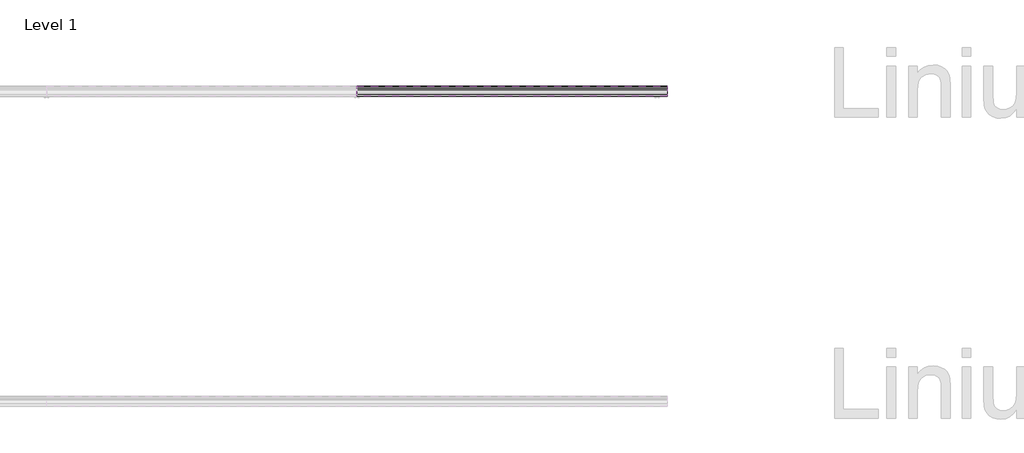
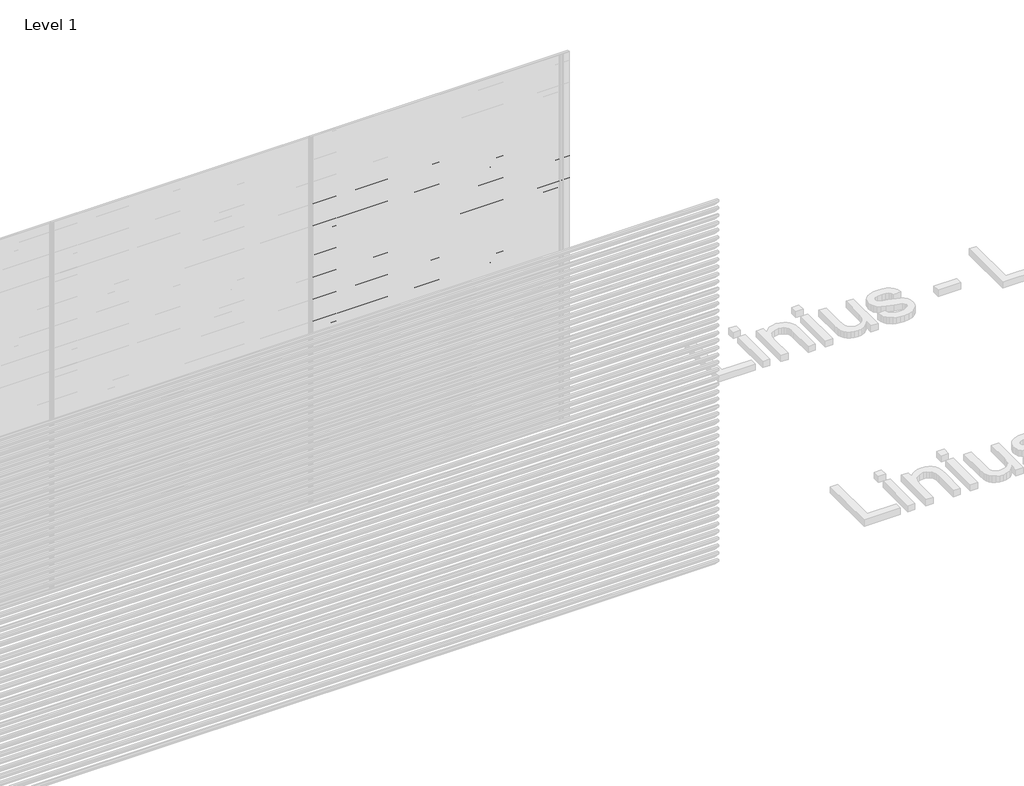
# One storey, part 151 of 153: 33 proxies.
"""IFC4 building model written with IfcOpenShell, lengths in millimetres."""

from ifc_helpers import new_model, si_unit, point, frame, frame_2d, origin, place, context, project, spatial, polyline, circle_curve, trimmed, segment, composite_curve, outline, extrude, element, save

model = new_model("IFC4")

# Units and contexts
model_context = context("Model", 3, world=origin())
ifc_project = project(units=[si_unit("LENGTHUNIT", "METRE", prefix="MILLI")], contexts=[model_context])

# Site, building, storey
site = spatial("IfcSite", under=ifc_project)
building = spatial("IfcBuilding", under=site)
storey = spatial("IfcBuildingStorey", under=building, Name="Level 1", Elevation=0.0)

# Proxies
placement = place(None, origin())
element("IfcBuildingElementProxy", 1, Name="Wall Sweeps", at=placement, inside=storey, context=model_context, shape_type="SweptSolid", body=[
    extrude(outline(composite_curve([segment(polyline([(73985.0540136, 2520.0), (73999.874191, 2518.7034025), (74049.0540136, 2465.0102749), (74049.0540136, 2453.6108187)]), True, "CONTINUOUS"), segment(trimmed(circle_curve(frame_2d((74045.7883652, 2453.897153)), 3.2781774), [point((74049.0540136, 2453.6108187))], [point((74046.4639442, 2450.6893438))], False, "CARTESIAN"), True, "CONTINUOUS"), segment(polyline([(74046.4639442, 2450.6893438), (74034.1895723, 2451.6282758), (73985.0540136, 2505.2730773), (73985.0540136, 2520.0)]), True, "CONTINUOUS")], self_intersect=False), holes=[composite_curve([segment(polyline([(73999.1621773, 2517.2599659), (73986.5540136, 2518.3630372), (73986.5540136, 2505.856213), (74034.8952036, 2453.0786805), (74046.3312542, 2452.2038762)]), True, "CONTINUOUS"), segment(trimmed(circle_curve(frame_2d((74045.7883652, 2453.897153)), 1.7781774), [point((74046.3312542, 2452.2038762))], [point((74047.5540136, 2453.6864389))], True, "CARTESIAN"), True, "CONTINUOUS"), segment(polyline([(74047.5540136, 2453.6864389), (74047.5540136, 2464.4271392), (73999.1621773, 2517.2599659)]), True, "CONTINUOUS")], self_intersect=False)]), frame((48966.6208096, 0.0, 0.0), z_axis=(1.0, 0.0, 0.0), x_axis=(0.0, 1.0, 0.0)), (0.0, 0.0, 1.0), 2000.0000001),
])
element("IfcBuildingElementProxy", 2, Name="Wall Sweeps", at=placement, inside=storey, context=model_context, shape_type="SweptSolid", body=[
    extrude(outline(composite_curve([segment(polyline([(73985.0540136, 2460.0), (73999.874191, 2458.7034025), (74049.0540136, 2405.0102749), (74049.0540136, 2393.6108187)]), True, "CONTINUOUS"), segment(trimmed(circle_curve(frame_2d((74045.7883652, 2393.897153)), 3.2781774), [point((74049.0540136, 2393.6108187))], [point((74046.4639442, 2390.6893438))], False, "CARTESIAN"), True, "CONTINUOUS"), segment(polyline([(74046.4639442, 2390.6893438), (74034.1895723, 2391.6282758), (73985.0540136, 2445.2730773), (73985.0540136, 2460.0)]), True, "CONTINUOUS")], self_intersect=False), holes=[composite_curve([segment(polyline([(73999.1621773, 2457.2599659), (73986.5540136, 2458.3630372), (73986.5540136, 2445.856213), (74034.8952036, 2393.0786805), (74046.3312542, 2392.2038762)]), True, "CONTINUOUS"), segment(trimmed(circle_curve(frame_2d((74045.7883652, 2393.897153)), 1.7781774), [point((74046.3312542, 2392.2038762))], [point((74047.5540136, 2393.6864389))], True, "CARTESIAN"), True, "CONTINUOUS"), segment(polyline([(74047.5540136, 2393.6864389), (74047.5540136, 2404.4271392), (73999.1621773, 2457.2599659)]), True, "CONTINUOUS")], self_intersect=False)]), frame((48966.6208096, 0.0, 0.0), z_axis=(1.0, 0.0, 0.0), x_axis=(0.0, 1.0, 0.0)), (0.0, 0.0, 1.0), 2000.0000001),
])
element("IfcBuildingElementProxy", 3, Name="Wall Sweeps", at=placement, inside=storey, context=model_context, shape_type="SweptSolid", body=[
    extrude(outline(composite_curve([segment(polyline([(73985.0540136, 2400.0), (73999.874191, 2398.7034025), (74049.0540136, 2345.0102749), (74049.0540136, 2333.6108187)]), True, "CONTINUOUS"), segment(trimmed(circle_curve(frame_2d((74045.7883652, 2333.897153)), 3.2781774), [point((74049.0540136, 2333.6108187))], [point((74046.4639442, 2330.6893438))], False, "CARTESIAN"), True, "CONTINUOUS"), segment(polyline([(74046.4639442, 2330.6893438), (74034.1895723, 2331.6282758), (73985.0540136, 2385.2730773), (73985.0540136, 2400.0)]), True, "CONTINUOUS")], self_intersect=False), holes=[composite_curve([segment(polyline([(73999.1621773, 2397.2599659), (73986.5540136, 2398.3630372), (73986.5540136, 2385.856213), (74034.8952036, 2333.0786805), (74046.3312542, 2332.2038762)]), True, "CONTINUOUS"), segment(trimmed(circle_curve(frame_2d((74045.7883652, 2333.897153)), 1.7781774), [point((74046.3312542, 2332.2038762))], [point((74047.5540136, 2333.6864389))], True, "CARTESIAN"), True, "CONTINUOUS"), segment(polyline([(74047.5540136, 2333.6864389), (74047.5540136, 2344.4271392), (73999.1621773, 2397.2599659)]), True, "CONTINUOUS")], self_intersect=False)]), frame((48966.6208096, 0.0, 0.0), z_axis=(1.0, 0.0, 0.0), x_axis=(0.0, 1.0, 0.0)), (0.0, 0.0, 1.0), 2000.0000001),
])
element("IfcBuildingElementProxy", 4, Name="Wall Sweeps", at=placement, inside=storey, context=model_context, shape_type="SweptSolid", body=[
    extrude(outline(composite_curve([segment(polyline([(73985.0540136, 2340.0), (73999.874191, 2338.7034025), (74049.0540136, 2285.0102749), (74049.0540136, 2273.6108187)]), True, "CONTINUOUS"), segment(trimmed(circle_curve(frame_2d((74045.7883652, 2273.897153)), 3.2781774), [point((74049.0540136, 2273.6108187))], [point((74046.4639442, 2270.6893438))], False, "CARTESIAN"), True, "CONTINUOUS"), segment(polyline([(74046.4639442, 2270.6893438), (74034.1895723, 2271.6282758), (73985.0540136, 2325.2730773), (73985.0540136, 2340.0)]), True, "CONTINUOUS")], self_intersect=False), holes=[composite_curve([segment(polyline([(73999.1621773, 2337.2599659), (73986.5540136, 2338.3630372), (73986.5540136, 2325.856213), (74034.8952036, 2273.0786805), (74046.3312542, 2272.2038762)]), True, "CONTINUOUS"), segment(trimmed(circle_curve(frame_2d((74045.7883652, 2273.897153)), 1.7781774), [point((74046.3312542, 2272.2038762))], [point((74047.5540136, 2273.6864389))], True, "CARTESIAN"), True, "CONTINUOUS"), segment(polyline([(74047.5540136, 2273.6864389), (74047.5540136, 2284.4271392), (73999.1621773, 2337.2599659)]), True, "CONTINUOUS")], self_intersect=False)]), frame((48966.6208096, 0.0, 0.0), z_axis=(1.0, 0.0, 0.0), x_axis=(0.0, 1.0, 0.0)), (0.0, 0.0, 1.0), 2000.0000001),
])
element("IfcBuildingElementProxy", 5, Name="Wall Sweeps", at=placement, inside=storey, context=model_context, shape_type="SweptSolid", body=[
    extrude(outline(composite_curve([segment(polyline([(73985.0540136, 2280.0), (73999.874191, 2278.7034025), (74049.0540136, 2225.0102749), (74049.0540136, 2213.6108187)]), True, "CONTINUOUS"), segment(trimmed(circle_curve(frame_2d((74045.7883652, 2213.897153)), 3.2781774), [point((74049.0540136, 2213.6108187))], [point((74046.4639442, 2210.6893438))], False, "CARTESIAN"), True, "CONTINUOUS"), segment(polyline([(74046.4639442, 2210.6893438), (74034.1895723, 2211.6282758), (73985.0540136, 2265.2730773), (73985.0540136, 2280.0)]), True, "CONTINUOUS")], self_intersect=False), holes=[composite_curve([segment(polyline([(73999.1621773, 2277.2599659), (73986.5540136, 2278.3630372), (73986.5540136, 2265.856213), (74034.8952036, 2213.0786805), (74046.3312542, 2212.2038762)]), True, "CONTINUOUS"), segment(trimmed(circle_curve(frame_2d((74045.7883652, 2213.897153)), 1.7781774), [point((74046.3312542, 2212.2038762))], [point((74047.5540136, 2213.6864389))], True, "CARTESIAN"), True, "CONTINUOUS"), segment(polyline([(74047.5540136, 2213.6864389), (74047.5540136, 2224.4271392), (73999.1621773, 2277.2599659)]), True, "CONTINUOUS")], self_intersect=False)]), frame((48966.6208096, 0.0, 0.0), z_axis=(1.0, 0.0, 0.0), x_axis=(0.0, 1.0, 0.0)), (0.0, 0.0, 1.0), 2000.0000001),
])
element("IfcBuildingElementProxy", 6, Name="Wall Sweeps", at=placement, inside=storey, context=model_context, shape_type="SweptSolid", body=[
    extrude(outline(composite_curve([segment(polyline([(73985.0540136, 2220.0), (73999.874191, 2218.7034025), (74049.0540136, 2165.0102749), (74049.0540136, 2153.6108187)]), True, "CONTINUOUS"), segment(trimmed(circle_curve(frame_2d((74045.7883652, 2153.897153)), 3.2781774), [point((74049.0540136, 2153.6108187))], [point((74046.4639442, 2150.6893438))], False, "CARTESIAN"), True, "CONTINUOUS"), segment(polyline([(74046.4639442, 2150.6893438), (74034.1895723, 2151.6282758), (73985.0540136, 2205.2730773), (73985.0540136, 2220.0)]), True, "CONTINUOUS")], self_intersect=False), holes=[composite_curve([segment(polyline([(73999.1621773, 2217.2599659), (73986.5540136, 2218.3630372), (73986.5540136, 2205.856213), (74034.8952036, 2153.0786805), (74046.3312542, 2152.2038762)]), True, "CONTINUOUS"), segment(trimmed(circle_curve(frame_2d((74045.7883652, 2153.897153)), 1.7781774), [point((74046.3312542, 2152.2038762))], [point((74047.5540136, 2153.6864389))], True, "CARTESIAN"), True, "CONTINUOUS"), segment(polyline([(74047.5540136, 2153.6864389), (74047.5540136, 2164.4271392), (73999.1621773, 2217.2599659)]), True, "CONTINUOUS")], self_intersect=False)]), frame((48966.6208096, 0.0, 0.0), z_axis=(1.0, 0.0, 0.0), x_axis=(0.0, 1.0, 0.0)), (0.0, 0.0, 1.0), 2000.0000001),
])
element("IfcBuildingElementProxy", 7, Name="Wall Sweeps", at=placement, inside=storey, context=model_context, shape_type="SweptSolid", body=[
    extrude(outline(composite_curve([segment(polyline([(73985.0540136, 2160.0), (73999.874191, 2158.7034025), (74049.0540136, 2105.0102749), (74049.0540136, 2093.6108187)]), True, "CONTINUOUS"), segment(trimmed(circle_curve(frame_2d((74045.7883652, 2093.897153)), 3.2781774), [point((74049.0540136, 2093.6108187))], [point((74046.4639442, 2090.6893438))], False, "CARTESIAN"), True, "CONTINUOUS"), segment(polyline([(74046.4639442, 2090.6893438), (74034.1895723, 2091.6282758), (73985.0540136, 2145.2730773), (73985.0540136, 2160.0)]), True, "CONTINUOUS")], self_intersect=False), holes=[composite_curve([segment(polyline([(73999.1621773, 2157.2599659), (73986.5540136, 2158.3630372), (73986.5540136, 2145.856213), (74034.8952036, 2093.0786805), (74046.3312542, 2092.2038762)]), True, "CONTINUOUS"), segment(trimmed(circle_curve(frame_2d((74045.7883652, 2093.897153)), 1.7781774), [point((74046.3312542, 2092.2038762))], [point((74047.5540136, 2093.6864389))], True, "CARTESIAN"), True, "CONTINUOUS"), segment(polyline([(74047.5540136, 2093.6864389), (74047.5540136, 2104.4271392), (73999.1621773, 2157.2599659)]), True, "CONTINUOUS")], self_intersect=False)]), frame((48966.6208096, 0.0, 0.0), z_axis=(1.0, 0.0, 0.0), x_axis=(0.0, 1.0, 0.0)), (0.0, 0.0, 1.0), 2000.0000001),
])
element("IfcBuildingElementProxy", 8, Name="Wall Sweeps", at=placement, inside=storey, context=model_context, shape_type="SweptSolid", body=[
    extrude(outline(composite_curve([segment(polyline([(73985.0540136, 2100.0), (73999.874191, 2098.7034025), (74049.0540136, 2045.0102749), (74049.0540136, 2033.6108187)]), True, "CONTINUOUS"), segment(trimmed(circle_curve(frame_2d((74045.7883652, 2033.897153)), 3.2781774), [point((74049.0540136, 2033.6108187))], [point((74046.4639442, 2030.6893438))], False, "CARTESIAN"), True, "CONTINUOUS"), segment(polyline([(74046.4639442, 2030.6893438), (74034.1895723, 2031.6282758), (73985.0540136, 2085.2730773), (73985.0540136, 2100.0)]), True, "CONTINUOUS")], self_intersect=False), holes=[composite_curve([segment(polyline([(73999.1621773, 2097.2599659), (73986.5540136, 2098.3630372), (73986.5540136, 2085.856213), (74034.8952036, 2033.0786805), (74046.3312542, 2032.2038762)]), True, "CONTINUOUS"), segment(trimmed(circle_curve(frame_2d((74045.7883652, 2033.897153)), 1.7781774), [point((74046.3312542, 2032.2038762))], [point((74047.5540136, 2033.6864389))], True, "CARTESIAN"), True, "CONTINUOUS"), segment(polyline([(74047.5540136, 2033.6864389), (74047.5540136, 2044.4271392), (73999.1621773, 2097.2599659)]), True, "CONTINUOUS")], self_intersect=False)]), frame((48966.6208096, 0.0, 0.0), z_axis=(1.0, 0.0, 0.0), x_axis=(0.0, 1.0, 0.0)), (0.0, 0.0, 1.0), 2000.0000001),
])
element("IfcBuildingElementProxy", 9, Name="Wall Sweeps", at=placement, inside=storey, context=model_context, shape_type="SweptSolid", body=[
    extrude(outline(composite_curve([segment(polyline([(73985.0540136, 2040.0), (73999.874191, 2038.7034025), (74049.0540136, 1985.0102749), (74049.0540136, 1973.6108187)]), True, "CONTINUOUS"), segment(trimmed(circle_curve(frame_2d((74045.7883652, 1973.897153)), 3.2781774), [point((74049.0540136, 1973.6108187))], [point((74046.4639442, 1970.6893438))], False, "CARTESIAN"), True, "CONTINUOUS"), segment(polyline([(74046.4639442, 1970.6893438), (74034.1895723, 1971.6282758), (73985.0540136, 2025.2730773), (73985.0540136, 2040.0)]), True, "CONTINUOUS")], self_intersect=False), holes=[composite_curve([segment(polyline([(73999.1621773, 2037.2599659), (73986.5540136, 2038.3630372), (73986.5540136, 2025.856213), (74034.8952036, 1973.0786805), (74046.3312542, 1972.2038762)]), True, "CONTINUOUS"), segment(trimmed(circle_curve(frame_2d((74045.7883652, 1973.897153)), 1.7781774), [point((74046.3312542, 1972.2038762))], [point((74047.5540136, 1973.6864389))], True, "CARTESIAN"), True, "CONTINUOUS"), segment(polyline([(74047.5540136, 1973.6864389), (74047.5540136, 1984.4271392), (73999.1621773, 2037.2599659)]), True, "CONTINUOUS")], self_intersect=False)]), frame((48966.6208096, 0.0, 0.0), z_axis=(1.0, 0.0, 0.0), x_axis=(0.0, 1.0, 0.0)), (0.0, 0.0, 1.0), 2000.0000001),
])
element("IfcBuildingElementProxy", 10, Name="Wall Sweeps", at=placement, inside=storey, context=model_context, shape_type="SweptSolid", body=[
    extrude(outline(composite_curve([segment(polyline([(73985.0540136, 1980.0), (73999.874191, 1978.7034025), (74049.0540136, 1925.0102749), (74049.0540136, 1913.6108187)]), True, "CONTINUOUS"), segment(trimmed(circle_curve(frame_2d((74045.7883652, 1913.897153)), 3.2781774), [point((74049.0540136, 1913.6108187))], [point((74046.4639442, 1910.6893438))], False, "CARTESIAN"), True, "CONTINUOUS"), segment(polyline([(74046.4639442, 1910.6893438), (74034.1895723, 1911.6282758), (73985.0540136, 1965.2730773), (73985.0540136, 1980.0)]), True, "CONTINUOUS")], self_intersect=False), holes=[composite_curve([segment(polyline([(73999.1621773, 1977.2599659), (73986.5540136, 1978.3630372), (73986.5540136, 1965.856213), (74034.8952036, 1913.0786805), (74046.3312542, 1912.2038762)]), True, "CONTINUOUS"), segment(trimmed(circle_curve(frame_2d((74045.7883652, 1913.897153)), 1.7781774), [point((74046.3312542, 1912.2038762))], [point((74047.5540136, 1913.6864389))], True, "CARTESIAN"), True, "CONTINUOUS"), segment(polyline([(74047.5540136, 1913.6864389), (74047.5540136, 1924.4271392), (73999.1621773, 1977.2599659)]), True, "CONTINUOUS")], self_intersect=False)]), frame((48966.6208096, 0.0, 0.0), z_axis=(1.0, 0.0, 0.0), x_axis=(0.0, 1.0, 0.0)), (0.0, 0.0, 1.0), 2000.0000001),
])
element("IfcBuildingElementProxy", 11, Name="Wall Sweeps", at=placement, inside=storey, context=model_context, shape_type="SweptSolid", body=[
    extrude(outline(composite_curve([segment(polyline([(73985.0540136, 1920.0), (73999.874191, 1918.7034025), (74049.0540136, 1865.0102749), (74049.0540136, 1853.6108187)]), True, "CONTINUOUS"), segment(trimmed(circle_curve(frame_2d((74045.7883652, 1853.897153)), 3.2781774), [point((74049.0540136, 1853.6108187))], [point((74046.4639442, 1850.6893438))], False, "CARTESIAN"), True, "CONTINUOUS"), segment(polyline([(74046.4639442, 1850.6893438), (74034.1895723, 1851.6282758), (73985.0540136, 1905.2730773), (73985.0540136, 1920.0)]), True, "CONTINUOUS")], self_intersect=False), holes=[composite_curve([segment(polyline([(73999.1621773, 1917.2599659), (73986.5540136, 1918.3630372), (73986.5540136, 1905.856213), (74034.8952036, 1853.0786805), (74046.3312542, 1852.2038762)]), True, "CONTINUOUS"), segment(trimmed(circle_curve(frame_2d((74045.7883652, 1853.897153)), 1.7781774), [point((74046.3312542, 1852.2038762))], [point((74047.5540136, 1853.6864389))], True, "CARTESIAN"), True, "CONTINUOUS"), segment(polyline([(74047.5540136, 1853.6864389), (74047.5540136, 1864.4271392), (73999.1621773, 1917.2599659)]), True, "CONTINUOUS")], self_intersect=False)]), frame((48966.6208096, 0.0, 0.0), z_axis=(1.0, 0.0, 0.0), x_axis=(0.0, 1.0, 0.0)), (0.0, 0.0, 1.0), 2000.0000001),
])
element("IfcBuildingElementProxy", 12, Name="Wall Sweeps", at=placement, inside=storey, context=model_context, shape_type="SweptSolid", body=[
    extrude(outline(composite_curve([segment(polyline([(73985.0540136, 1860.0), (73999.874191, 1858.7034025), (74049.0540136, 1805.0102749), (74049.0540136, 1793.6108187)]), True, "CONTINUOUS"), segment(trimmed(circle_curve(frame_2d((74045.7883652, 1793.897153)), 3.2781774), [point((74049.0540136, 1793.6108187))], [point((74046.4639442, 1790.6893438))], False, "CARTESIAN"), True, "CONTINUOUS"), segment(polyline([(74046.4639442, 1790.6893438), (74034.1895723, 1791.6282758), (73985.0540136, 1845.2730773), (73985.0540136, 1860.0)]), True, "CONTINUOUS")], self_intersect=False), holes=[composite_curve([segment(polyline([(73999.1621773, 1857.2599659), (73986.5540136, 1858.3630372), (73986.5540136, 1845.856213), (74034.8952036, 1793.0786805), (74046.3312542, 1792.2038762)]), True, "CONTINUOUS"), segment(trimmed(circle_curve(frame_2d((74045.7883652, 1793.897153)), 1.7781774), [point((74046.3312542, 1792.2038762))], [point((74047.5540136, 1793.6864389))], True, "CARTESIAN"), True, "CONTINUOUS"), segment(polyline([(74047.5540136, 1793.6864389), (74047.5540136, 1804.4271392), (73999.1621773, 1857.2599659)]), True, "CONTINUOUS")], self_intersect=False)]), frame((48966.6208096, 0.0, 0.0), z_axis=(1.0, 0.0, 0.0), x_axis=(0.0, 1.0, 0.0)), (0.0, 0.0, 1.0), 2000.0000001),
])
element("IfcBuildingElementProxy", 13, Name="Wall Sweeps", at=placement, inside=storey, context=model_context, shape_type="SweptSolid", body=[
    extrude(outline(composite_curve([segment(polyline([(73985.0540136, 1800.0), (73999.874191, 1798.7034025), (74049.0540136, 1745.0102749), (74049.0540136, 1733.6108187)]), True, "CONTINUOUS"), segment(trimmed(circle_curve(frame_2d((74045.7883652, 1733.897153)), 3.2781774), [point((74049.0540136, 1733.6108187))], [point((74046.4639442, 1730.6893438))], False, "CARTESIAN"), True, "CONTINUOUS"), segment(polyline([(74046.4639442, 1730.6893438), (74034.1895723, 1731.6282758), (73985.0540136, 1785.2730773), (73985.0540136, 1800.0)]), True, "CONTINUOUS")], self_intersect=False), holes=[composite_curve([segment(polyline([(73999.1621773, 1797.2599659), (73986.5540136, 1798.3630372), (73986.5540136, 1785.856213), (74034.8952036, 1733.0786805), (74046.3312542, 1732.2038762)]), True, "CONTINUOUS"), segment(trimmed(circle_curve(frame_2d((74045.7883652, 1733.897153)), 1.7781774), [point((74046.3312542, 1732.2038762))], [point((74047.5540136, 1733.6864389))], True, "CARTESIAN"), True, "CONTINUOUS"), segment(polyline([(74047.5540136, 1733.6864389), (74047.5540136, 1744.4271392), (73999.1621773, 1797.2599659)]), True, "CONTINUOUS")], self_intersect=False)]), frame((48966.6208096, 0.0, 0.0), z_axis=(1.0, 0.0, 0.0), x_axis=(0.0, 1.0, 0.0)), (0.0, 0.0, 1.0), 2000.0000001),
])
element("IfcBuildingElementProxy", 14, Name="Wall Sweeps", at=placement, inside=storey, context=model_context, shape_type="SweptSolid", body=[
    extrude(outline(composite_curve([segment(polyline([(73985.0540136, 1740.0), (73999.874191, 1738.7034025), (74049.0540136, 1685.0102749), (74049.0540136, 1673.6108187)]), True, "CONTINUOUS"), segment(trimmed(circle_curve(frame_2d((74045.7883652, 1673.897153)), 3.2781774), [point((74049.0540136, 1673.6108187))], [point((74046.4639442, 1670.6893438))], False, "CARTESIAN"), True, "CONTINUOUS"), segment(polyline([(74046.4639442, 1670.6893438), (74034.1895723, 1671.6282758), (73985.0540136, 1725.2730773), (73985.0540136, 1740.0)]), True, "CONTINUOUS")], self_intersect=False), holes=[composite_curve([segment(polyline([(73999.1621773, 1737.2599659), (73986.5540136, 1738.3630372), (73986.5540136, 1725.856213), (74034.8952036, 1673.0786805), (74046.3312542, 1672.2038762)]), True, "CONTINUOUS"), segment(trimmed(circle_curve(frame_2d((74045.7883652, 1673.897153)), 1.7781774), [point((74046.3312542, 1672.2038762))], [point((74047.5540136, 1673.6864389))], True, "CARTESIAN"), True, "CONTINUOUS"), segment(polyline([(74047.5540136, 1673.6864389), (74047.5540136, 1684.4271392), (73999.1621773, 1737.2599659)]), True, "CONTINUOUS")], self_intersect=False)]), frame((48966.6208096, 0.0, 0.0), z_axis=(1.0, 0.0, 0.0), x_axis=(0.0, 1.0, 0.0)), (0.0, 0.0, 1.0), 2000.0000001),
])
element("IfcBuildingElementProxy", 15, Name="Wall Sweeps", at=placement, inside=storey, context=model_context, shape_type="SweptSolid", body=[
    extrude(outline(composite_curve([segment(polyline([(73985.0540136, 1680.0), (73999.874191, 1678.7034025), (74049.0540136, 1625.0102749), (74049.0540136, 1613.6108187)]), True, "CONTINUOUS"), segment(trimmed(circle_curve(frame_2d((74045.7883652, 1613.897153)), 3.2781774), [point((74049.0540136, 1613.6108187))], [point((74046.4639442, 1610.6893438))], False, "CARTESIAN"), True, "CONTINUOUS"), segment(polyline([(74046.4639442, 1610.6893438), (74034.1895723, 1611.6282758), (73985.0540136, 1665.2730773), (73985.0540136, 1680.0)]), True, "CONTINUOUS")], self_intersect=False), holes=[composite_curve([segment(polyline([(73999.1621773, 1677.2599659), (73986.5540136, 1678.3630372), (73986.5540136, 1665.856213), (74034.8952036, 1613.0786805), (74046.3312542, 1612.2038762)]), True, "CONTINUOUS"), segment(trimmed(circle_curve(frame_2d((74045.7883652, 1613.897153)), 1.7781774), [point((74046.3312542, 1612.2038762))], [point((74047.5540136, 1613.6864389))], True, "CARTESIAN"), True, "CONTINUOUS"), segment(polyline([(74047.5540136, 1613.6864389), (74047.5540136, 1624.4271392), (73999.1621773, 1677.2599659)]), True, "CONTINUOUS")], self_intersect=False)]), frame((48966.6208096, 0.0, 0.0), z_axis=(1.0, 0.0, 0.0), x_axis=(0.0, 1.0, 0.0)), (0.0, 0.0, 1.0), 2000.0000001),
])
element("IfcBuildingElementProxy", 16, Name="Wall Sweeps", at=placement, inside=storey, context=model_context, shape_type="SweptSolid", body=[
    extrude(outline(composite_curve([segment(polyline([(73985.0540136, 1620.0), (73999.874191, 1618.7034025), (74049.0540136, 1565.0102749), (74049.0540136, 1553.6108187)]), True, "CONTINUOUS"), segment(trimmed(circle_curve(frame_2d((74045.7883652, 1553.897153)), 3.2781774), [point((74049.0540136, 1553.6108187))], [point((74046.4639442, 1550.6893438))], False, "CARTESIAN"), True, "CONTINUOUS"), segment(polyline([(74046.4639442, 1550.6893438), (74034.1895723, 1551.6282758), (73985.0540136, 1605.2730773), (73985.0540136, 1620.0)]), True, "CONTINUOUS")], self_intersect=False), holes=[composite_curve([segment(polyline([(73999.1621773, 1617.2599659), (73986.5540136, 1618.3630372), (73986.5540136, 1605.856213), (74034.8952036, 1553.0786805), (74046.3312542, 1552.2038762)]), True, "CONTINUOUS"), segment(trimmed(circle_curve(frame_2d((74045.7883652, 1553.897153)), 1.7781774), [point((74046.3312542, 1552.2038762))], [point((74047.5540136, 1553.6864389))], True, "CARTESIAN"), True, "CONTINUOUS"), segment(polyline([(74047.5540136, 1553.6864389), (74047.5540136, 1564.4271392), (73999.1621773, 1617.2599659)]), True, "CONTINUOUS")], self_intersect=False)]), frame((48966.6208096, 0.0, 0.0), z_axis=(1.0, 0.0, 0.0), x_axis=(0.0, 1.0, 0.0)), (0.0, 0.0, 1.0), 2000.0000001),
])
element("IfcBuildingElementProxy", 17, Name="Wall Sweeps", at=placement, inside=storey, context=model_context, shape_type="SweptSolid", body=[
    extrude(outline(composite_curve([segment(polyline([(73985.0540136, 1560.0), (73999.874191, 1558.7034025), (74049.0540136, 1505.0102749), (74049.0540136, 1493.6108187)]), True, "CONTINUOUS"), segment(trimmed(circle_curve(frame_2d((74045.7883652, 1493.897153)), 3.2781774), [point((74049.0540136, 1493.6108187))], [point((74046.4639442, 1490.6893438))], False, "CARTESIAN"), True, "CONTINUOUS"), segment(polyline([(74046.4639442, 1490.6893438), (74034.1895723, 1491.6282758), (73985.0540136, 1545.2730773), (73985.0540136, 1560.0)]), True, "CONTINUOUS")], self_intersect=False), holes=[composite_curve([segment(polyline([(73999.1621773, 1557.2599659), (73986.5540136, 1558.3630372), (73986.5540136, 1545.856213), (74034.8952036, 1493.0786805), (74046.3312542, 1492.2038762)]), True, "CONTINUOUS"), segment(trimmed(circle_curve(frame_2d((74045.7883652, 1493.897153)), 1.7781774), [point((74046.3312542, 1492.2038762))], [point((74047.5540136, 1493.6864389))], True, "CARTESIAN"), True, "CONTINUOUS"), segment(polyline([(74047.5540136, 1493.6864389), (74047.5540136, 1504.4271392), (73999.1621773, 1557.2599659)]), True, "CONTINUOUS")], self_intersect=False)]), frame((48966.6208096, 0.0, 0.0), z_axis=(1.0, 0.0, 0.0), x_axis=(0.0, 1.0, 0.0)), (0.0, 0.0, 1.0), 2000.0000001),
])
element("IfcBuildingElementProxy", 18, Name="Wall Sweeps", at=placement, inside=storey, context=model_context, shape_type="SweptSolid", body=[
    extrude(outline(composite_curve([segment(polyline([(73985.0540136, 1500.0), (73999.874191, 1498.7034025), (74049.0540136, 1445.0102749), (74049.0540136, 1433.6108187)]), True, "CONTINUOUS"), segment(trimmed(circle_curve(frame_2d((74045.7883652, 1433.897153)), 3.2781774), [point((74049.0540136, 1433.6108187))], [point((74046.4639442, 1430.6893438))], False, "CARTESIAN"), True, "CONTINUOUS"), segment(polyline([(74046.4639442, 1430.6893438), (74034.1895723, 1431.6282758), (73985.0540136, 1485.2730773), (73985.0540136, 1500.0)]), True, "CONTINUOUS")], self_intersect=False), holes=[composite_curve([segment(polyline([(73999.1621773, 1497.2599659), (73986.5540136, 1498.3630372), (73986.5540136, 1485.856213), (74034.8952036, 1433.0786805), (74046.3312542, 1432.2038762)]), True, "CONTINUOUS"), segment(trimmed(circle_curve(frame_2d((74045.7883652, 1433.897153)), 1.7781774), [point((74046.3312542, 1432.2038762))], [point((74047.5540136, 1433.6864389))], True, "CARTESIAN"), True, "CONTINUOUS"), segment(polyline([(74047.5540136, 1433.6864389), (74047.5540136, 1444.4271392), (73999.1621773, 1497.2599659)]), True, "CONTINUOUS")], self_intersect=False)]), frame((48966.6208096, 0.0, 0.0), z_axis=(1.0, 0.0, 0.0), x_axis=(0.0, 1.0, 0.0)), (0.0, 0.0, 1.0), 2000.0000001),
])
element("IfcBuildingElementProxy", 19, Name="Wall Sweeps", at=placement, inside=storey, context=model_context, shape_type="SweptSolid", body=[
    extrude(outline(composite_curve([segment(polyline([(73985.0540136, 1440.0), (73999.874191, 1438.7034025), (74049.0540136, 1385.0102749), (74049.0540136, 1373.6108187)]), True, "CONTINUOUS"), segment(trimmed(circle_curve(frame_2d((74045.7883652, 1373.897153)), 3.2781774), [point((74049.0540136, 1373.6108187))], [point((74046.4639442, 1370.6893438))], False, "CARTESIAN"), True, "CONTINUOUS"), segment(polyline([(74046.4639442, 1370.6893438), (74034.1895723, 1371.6282758), (73985.0540136, 1425.2730773), (73985.0540136, 1440.0)]), True, "CONTINUOUS")], self_intersect=False), holes=[composite_curve([segment(polyline([(73999.1621773, 1437.2599659), (73986.5540136, 1438.3630372), (73986.5540136, 1425.856213), (74034.8952036, 1373.0786805), (74046.3312542, 1372.2038762)]), True, "CONTINUOUS"), segment(trimmed(circle_curve(frame_2d((74045.7883652, 1373.897153)), 1.7781774), [point((74046.3312542, 1372.2038762))], [point((74047.5540136, 1373.6864389))], True, "CARTESIAN"), True, "CONTINUOUS"), segment(polyline([(74047.5540136, 1373.6864389), (74047.5540136, 1384.4271392), (73999.1621773, 1437.2599659)]), True, "CONTINUOUS")], self_intersect=False)]), frame((48966.6208096, 0.0, 0.0), z_axis=(1.0, 0.0, 0.0), x_axis=(0.0, 1.0, 0.0)), (0.0, 0.0, 1.0), 2000.0000001),
])
element("IfcBuildingElementProxy", 20, Name="Wall Sweeps", at=placement, inside=storey, context=model_context, shape_type="SweptSolid", body=[
    extrude(outline(composite_curve([segment(polyline([(73985.0540136, 1380.0), (73999.874191, 1378.7034025), (74049.0540136, 1325.0102749), (74049.0540136, 1313.6108187)]), True, "CONTINUOUS"), segment(trimmed(circle_curve(frame_2d((74045.7883652, 1313.897153)), 3.2781774), [point((74049.0540136, 1313.6108187))], [point((74046.4639442, 1310.6893438))], False, "CARTESIAN"), True, "CONTINUOUS"), segment(polyline([(74046.4639442, 1310.6893438), (74034.1895723, 1311.6282758), (73985.0540136, 1365.2730773), (73985.0540136, 1380.0)]), True, "CONTINUOUS")], self_intersect=False), holes=[composite_curve([segment(polyline([(73999.1621773, 1377.2599659), (73986.5540136, 1378.3630372), (73986.5540136, 1365.856213), (74034.8952036, 1313.0786805), (74046.3312542, 1312.2038762)]), True, "CONTINUOUS"), segment(trimmed(circle_curve(frame_2d((74045.7883652, 1313.897153)), 1.7781774), [point((74046.3312542, 1312.2038762))], [point((74047.5540136, 1313.6864389))], True, "CARTESIAN"), True, "CONTINUOUS"), segment(polyline([(74047.5540136, 1313.6864389), (74047.5540136, 1324.4271392), (73999.1621773, 1377.2599659)]), True, "CONTINUOUS")], self_intersect=False)]), frame((48966.6208096, 0.0, 0.0), z_axis=(1.0, 0.0, 0.0), x_axis=(0.0, 1.0, 0.0)), (0.0, 0.0, 1.0), 2000.0000001),
])
element("IfcBuildingElementProxy", 21, Name="Wall Sweeps", at=placement, inside=storey, context=model_context, shape_type="SweptSolid", body=[
    extrude(outline(composite_curve([segment(polyline([(73985.0540136, 1320.0), (73999.874191, 1318.7034025), (74049.0540136, 1265.0102749), (74049.0540136, 1253.6108187)]), True, "CONTINUOUS"), segment(trimmed(circle_curve(frame_2d((74045.7883652, 1253.897153)), 3.2781774), [point((74049.0540136, 1253.6108187))], [point((74046.4639442, 1250.6893438))], False, "CARTESIAN"), True, "CONTINUOUS"), segment(polyline([(74046.4639442, 1250.6893438), (74034.1895723, 1251.6282758), (73985.0540136, 1305.2730773), (73985.0540136, 1320.0)]), True, "CONTINUOUS")], self_intersect=False), holes=[composite_curve([segment(polyline([(73999.1621773, 1317.2599659), (73986.5540136, 1318.3630372), (73986.5540136, 1305.856213), (74034.8952036, 1253.0786805), (74046.3312542, 1252.2038762)]), True, "CONTINUOUS"), segment(trimmed(circle_curve(frame_2d((74045.7883652, 1253.897153)), 1.7781774), [point((74046.3312542, 1252.2038762))], [point((74047.5540136, 1253.6864389))], True, "CARTESIAN"), True, "CONTINUOUS"), segment(polyline([(74047.5540136, 1253.6864389), (74047.5540136, 1264.4271392), (73999.1621773, 1317.2599659)]), True, "CONTINUOUS")], self_intersect=False)]), frame((48966.6208096, 0.0, 0.0), z_axis=(1.0, 0.0, 0.0), x_axis=(0.0, 1.0, 0.0)), (0.0, 0.0, 1.0), 2000.0000001),
])
element("IfcBuildingElementProxy", 22, Name="Wall Sweeps", at=placement, inside=storey, context=model_context, shape_type="SweptSolid", body=[
    extrude(outline(composite_curve([segment(polyline([(73985.0540136, 1260.0), (73999.874191, 1258.7034025), (74049.0540136, 1205.0102749), (74049.0540136, 1193.6108187)]), True, "CONTINUOUS"), segment(trimmed(circle_curve(frame_2d((74045.7883652, 1193.897153)), 3.2781774), [point((74049.0540136, 1193.6108187))], [point((74046.4639442, 1190.6893438))], False, "CARTESIAN"), True, "CONTINUOUS"), segment(polyline([(74046.4639442, 1190.6893438), (74034.1895723, 1191.6282758), (73985.0540136, 1245.2730773), (73985.0540136, 1260.0)]), True, "CONTINUOUS")], self_intersect=False), holes=[composite_curve([segment(polyline([(73999.1621773, 1257.2599659), (73986.5540136, 1258.3630372), (73986.5540136, 1245.856213), (74034.8952036, 1193.0786805), (74046.3312542, 1192.2038762)]), True, "CONTINUOUS"), segment(trimmed(circle_curve(frame_2d((74045.7883652, 1193.897153)), 1.7781774), [point((74046.3312542, 1192.2038762))], [point((74047.5540136, 1193.6864389))], True, "CARTESIAN"), True, "CONTINUOUS"), segment(polyline([(74047.5540136, 1193.6864389), (74047.5540136, 1204.4271392), (73999.1621773, 1257.2599659)]), True, "CONTINUOUS")], self_intersect=False)]), frame((48966.6208096, 0.0, 0.0), z_axis=(1.0, 0.0, 0.0), x_axis=(0.0, 1.0, 0.0)), (0.0, 0.0, 1.0), 2000.0000001),
])
element("IfcBuildingElementProxy", 23, Name="Wall Sweeps", at=placement, inside=storey, context=model_context, shape_type="SweptSolid", body=[
    extrude(outline(composite_curve([segment(polyline([(73985.0540136, 1200.0), (73999.874191, 1198.7034025), (74049.0540136, 1145.0102749), (74049.0540136, 1133.6108187)]), True, "CONTINUOUS"), segment(trimmed(circle_curve(frame_2d((74045.7883652, 1133.897153)), 3.2781774), [point((74049.0540136, 1133.6108187))], [point((74046.4639442, 1130.6893438))], False, "CARTESIAN"), True, "CONTINUOUS"), segment(polyline([(74046.4639442, 1130.6893438), (74034.1895723, 1131.6282758), (73985.0540136, 1185.2730773), (73985.0540136, 1200.0)]), True, "CONTINUOUS")], self_intersect=False), holes=[composite_curve([segment(polyline([(73999.1621773, 1197.2599659), (73986.5540136, 1198.3630372), (73986.5540136, 1185.856213), (74034.8952036, 1133.0786805), (74046.3312542, 1132.2038762)]), True, "CONTINUOUS"), segment(trimmed(circle_curve(frame_2d((74045.7883652, 1133.897153)), 1.7781774), [point((74046.3312542, 1132.2038762))], [point((74047.5540136, 1133.6864389))], True, "CARTESIAN"), True, "CONTINUOUS"), segment(polyline([(74047.5540136, 1133.6864389), (74047.5540136, 1144.4271392), (73999.1621773, 1197.2599659)]), True, "CONTINUOUS")], self_intersect=False)]), frame((48966.6208096, 0.0, 0.0), z_axis=(1.0, 0.0, 0.0), x_axis=(0.0, 1.0, 0.0)), (0.0, 0.0, 1.0), 2000.0000001),
])
element("IfcBuildingElementProxy", 24, Name="Wall Sweeps", at=placement, inside=storey, context=model_context, shape_type="SweptSolid", body=[
    extrude(outline(composite_curve([segment(polyline([(73985.0540136, 1140.0), (73999.874191, 1138.7034025), (74049.0540136, 1085.0102749), (74049.0540136, 1073.6108187)]), True, "CONTINUOUS"), segment(trimmed(circle_curve(frame_2d((74045.7883652, 1073.897153)), 3.2781774), [point((74049.0540136, 1073.6108187))], [point((74046.4639442, 1070.6893438))], False, "CARTESIAN"), True, "CONTINUOUS"), segment(polyline([(74046.4639442, 1070.6893438), (74034.1895723, 1071.6282758), (73985.0540136, 1125.2730773), (73985.0540136, 1140.0)]), True, "CONTINUOUS")], self_intersect=False), holes=[composite_curve([segment(polyline([(73999.1621773, 1137.2599659), (73986.5540136, 1138.3630372), (73986.5540136, 1125.856213), (74034.8952036, 1073.0786805), (74046.3312542, 1072.2038762)]), True, "CONTINUOUS"), segment(trimmed(circle_curve(frame_2d((74045.7883652, 1073.897153)), 1.7781774), [point((74046.3312542, 1072.2038762))], [point((74047.5540136, 1073.6864389))], True, "CARTESIAN"), True, "CONTINUOUS"), segment(polyline([(74047.5540136, 1073.6864389), (74047.5540136, 1084.4271392), (73999.1621773, 1137.2599659)]), True, "CONTINUOUS")], self_intersect=False)]), frame((48966.6208096, 0.0, 0.0), z_axis=(1.0, 0.0, 0.0), x_axis=(0.0, 1.0, 0.0)), (0.0, 0.0, 1.0), 2000.0000001),
])
element("IfcBuildingElementProxy", 25, Name="Wall Sweeps", at=placement, inside=storey, context=model_context, shape_type="SweptSolid", body=[
    extrude(outline(composite_curve([segment(polyline([(73985.0540136, 1080.0), (73999.874191, 1078.7034025), (74049.0540136, 1025.0102749), (74049.0540136, 1013.6108187)]), True, "CONTINUOUS"), segment(trimmed(circle_curve(frame_2d((74045.7883652, 1013.897153)), 3.2781774), [point((74049.0540136, 1013.6108187))], [point((74046.4639442, 1010.6893438))], False, "CARTESIAN"), True, "CONTINUOUS"), segment(polyline([(74046.4639442, 1010.6893438), (74034.1895723, 1011.6282758), (73985.0540136, 1065.2730773), (73985.0540136, 1080.0)]), True, "CONTINUOUS")], self_intersect=False), holes=[composite_curve([segment(polyline([(73999.1621773, 1077.2599659), (73986.5540136, 1078.3630372), (73986.5540136, 1065.856213), (74034.8952036, 1013.0786805), (74046.3312542, 1012.2038762)]), True, "CONTINUOUS"), segment(trimmed(circle_curve(frame_2d((74045.7883652, 1013.897153)), 1.7781774), [point((74046.3312542, 1012.2038762))], [point((74047.5540136, 1013.6864389))], True, "CARTESIAN"), True, "CONTINUOUS"), segment(polyline([(74047.5540136, 1013.6864389), (74047.5540136, 1024.4271392), (73999.1621773, 1077.2599659)]), True, "CONTINUOUS")], self_intersect=False)]), frame((48966.6208096, 0.0, 0.0), z_axis=(1.0, 0.0, 0.0), x_axis=(0.0, 1.0, 0.0)), (0.0, 0.0, 1.0), 2000.0000001),
])
element("IfcBuildingElementProxy", 26, Name="Wall Sweeps", at=placement, inside=storey, context=model_context, shape_type="SweptSolid", body=[
    extrude(outline(composite_curve([segment(polyline([(73985.0540136, 1020.0), (73999.874191, 1018.7034025), (74049.0540136, 965.0102749), (74049.0540136, 953.6108187)]), True, "CONTINUOUS"), segment(trimmed(circle_curve(frame_2d((74045.7883652, 953.897153)), 3.2781774), [point((74049.0540136, 953.6108187))], [point((74046.4639442, 950.6893438))], False, "CARTESIAN"), True, "CONTINUOUS"), segment(polyline([(74046.4639442, 950.6893438), (74034.1895723, 951.6282758), (73985.0540136, 1005.2730773), (73985.0540136, 1020.0)]), True, "CONTINUOUS")], self_intersect=False), holes=[composite_curve([segment(polyline([(73999.1621773, 1017.2599659), (73986.5540136, 1018.3630372), (73986.5540136, 1005.856213), (74034.8952036, 953.0786805), (74046.3312542, 952.2038762)]), True, "CONTINUOUS"), segment(trimmed(circle_curve(frame_2d((74045.7883652, 953.897153)), 1.7781774), [point((74046.3312542, 952.2038762))], [point((74047.5540136, 953.6864389))], True, "CARTESIAN"), True, "CONTINUOUS"), segment(polyline([(74047.5540136, 953.6864389), (74047.5540136, 964.4271392), (73999.1621773, 1017.2599659)]), True, "CONTINUOUS")], self_intersect=False)]), frame((48966.6208096, 0.0, 0.0), z_axis=(1.0, 0.0, 0.0), x_axis=(0.0, 1.0, 0.0)), (0.0, 0.0, 1.0), 2000.0000001),
])
element("IfcBuildingElementProxy", 27, Name="Wall Sweeps", at=placement, inside=storey, context=model_context, shape_type="SweptSolid", body=[
    extrude(outline(composite_curve([segment(polyline([(73985.0540136, 960.0), (73999.874191, 958.7034025), (74049.0540136, 905.0102749), (74049.0540136, 893.6108187)]), True, "CONTINUOUS"), segment(trimmed(circle_curve(frame_2d((74045.7883652, 893.897153)), 3.2781774), [point((74049.0540136, 893.6108187))], [point((74046.4639442, 890.6893438))], False, "CARTESIAN"), True, "CONTINUOUS"), segment(polyline([(74046.4639442, 890.6893438), (74034.1895723, 891.6282758), (73985.0540136, 945.2730773), (73985.0540136, 960.0)]), True, "CONTINUOUS")], self_intersect=False), holes=[composite_curve([segment(polyline([(73999.1621773, 957.2599659), (73986.5540136, 958.3630372), (73986.5540136, 945.856213), (74034.8952036, 893.0786805), (74046.3312542, 892.2038762)]), True, "CONTINUOUS"), segment(trimmed(circle_curve(frame_2d((74045.7883652, 893.897153)), 1.7781774), [point((74046.3312542, 892.2038762))], [point((74047.5540136, 893.6864389))], True, "CARTESIAN"), True, "CONTINUOUS"), segment(polyline([(74047.5540136, 893.6864389), (74047.5540136, 904.4271392), (73999.1621773, 957.2599659)]), True, "CONTINUOUS")], self_intersect=False)]), frame((48966.6208096, 0.0, 0.0), z_axis=(1.0, 0.0, 0.0), x_axis=(0.0, 1.0, 0.0)), (0.0, 0.0, 1.0), 2000.0000001),
])
element("IfcBuildingElementProxy", 28, Name="Wall Sweeps", at=placement, inside=storey, context=model_context, shape_type="SweptSolid", body=[
    extrude(outline(composite_curve([segment(polyline([(73985.0540136, 900.0), (73999.874191, 898.7034025), (74049.0540136, 845.0102749), (74049.0540136, 833.6108187)]), True, "CONTINUOUS"), segment(trimmed(circle_curve(frame_2d((74045.7883652, 833.897153)), 3.2781774), [point((74049.0540136, 833.6108187))], [point((74046.4639442, 830.6893438))], False, "CARTESIAN"), True, "CONTINUOUS"), segment(polyline([(74046.4639442, 830.6893438), (74034.1895723, 831.6282758), (73985.0540136, 885.2730773), (73985.0540136, 900.0)]), True, "CONTINUOUS")], self_intersect=False), holes=[composite_curve([segment(polyline([(73999.1621773, 897.2599659), (73986.5540136, 898.3630372), (73986.5540136, 885.856213), (74034.8952036, 833.0786805), (74046.3312542, 832.2038762)]), True, "CONTINUOUS"), segment(trimmed(circle_curve(frame_2d((74045.7883652, 833.897153)), 1.7781774), [point((74046.3312542, 832.2038762))], [point((74047.5540136, 833.6864389))], True, "CARTESIAN"), True, "CONTINUOUS"), segment(polyline([(74047.5540136, 833.6864389), (74047.5540136, 844.4271392), (73999.1621773, 897.2599659)]), True, "CONTINUOUS")], self_intersect=False)]), frame((48966.6208096, 0.0, 0.0), z_axis=(1.0, 0.0, 0.0), x_axis=(0.0, 1.0, 0.0)), (0.0, 0.0, 1.0), 2000.0000001),
])
element("IfcBuildingElementProxy", 29, Name="Wall Sweeps", at=placement, inside=storey, context=model_context, shape_type="SweptSolid", body=[
    extrude(outline(composite_curve([segment(polyline([(73985.0540136, 840.0), (73999.874191, 838.7034025), (74049.0540136, 785.0102749), (74049.0540136, 773.6108187)]), True, "CONTINUOUS"), segment(trimmed(circle_curve(frame_2d((74045.7883652, 773.897153)), 3.2781774), [point((74049.0540136, 773.6108187))], [point((74046.4639442, 770.6893438))], False, "CARTESIAN"), True, "CONTINUOUS"), segment(polyline([(74046.4639442, 770.6893438), (74034.1895723, 771.6282758), (73985.0540136, 825.2730773), (73985.0540136, 840.0)]), True, "CONTINUOUS")], self_intersect=False), holes=[composite_curve([segment(polyline([(73999.1621773, 837.2599659), (73986.5540136, 838.3630372), (73986.5540136, 825.856213), (74034.8952036, 773.0786805), (74046.3312542, 772.2038762)]), True, "CONTINUOUS"), segment(trimmed(circle_curve(frame_2d((74045.7883652, 773.897153)), 1.7781774), [point((74046.3312542, 772.2038762))], [point((74047.5540136, 773.6864389))], True, "CARTESIAN"), True, "CONTINUOUS"), segment(polyline([(74047.5540136, 773.6864389), (74047.5540136, 784.4271392), (73999.1621773, 837.2599659)]), True, "CONTINUOUS")], self_intersect=False)]), frame((48966.6208096, 0.0, 0.0), z_axis=(1.0, 0.0, 0.0), x_axis=(0.0, 1.0, 0.0)), (0.0, 0.0, 1.0), 2000.0000001),
])
element("IfcBuildingElementProxy", 30, Name="Wall Sweeps", at=placement, inside=storey, context=model_context, shape_type="SweptSolid", body=[
    extrude(outline(composite_curve([segment(polyline([(73985.0540136, 780.0), (73999.874191, 778.7034025), (74049.0540136, 725.0102749), (74049.0540136, 713.6108187)]), True, "CONTINUOUS"), segment(trimmed(circle_curve(frame_2d((74045.7883652, 713.897153)), 3.2781774), [point((74049.0540136, 713.6108187))], [point((74046.4639442, 710.6893438))], False, "CARTESIAN"), True, "CONTINUOUS"), segment(polyline([(74046.4639442, 710.6893438), (74034.1895723, 711.6282758), (73985.0540136, 765.2730773), (73985.0540136, 780.0)]), True, "CONTINUOUS")], self_intersect=False), holes=[composite_curve([segment(polyline([(73999.1621773, 777.2599659), (73986.5540136, 778.3630372), (73986.5540136, 765.856213), (74034.8952036, 713.0786805), (74046.3312542, 712.2038762)]), True, "CONTINUOUS"), segment(trimmed(circle_curve(frame_2d((74045.7883652, 713.897153)), 1.7781774), [point((74046.3312542, 712.2038762))], [point((74047.5540136, 713.6864389))], True, "CARTESIAN"), True, "CONTINUOUS"), segment(polyline([(74047.5540136, 713.6864389), (74047.5540136, 724.4271392), (73999.1621773, 777.2599659)]), True, "CONTINUOUS")], self_intersect=False)]), frame((48966.6208096, 0.0, 0.0), z_axis=(1.0, 0.0, 0.0), x_axis=(0.0, 1.0, 0.0)), (0.0, 0.0, 1.0), 2000.0000001),
])
element("IfcBuildingElementProxy", 31, Name="Wall Sweeps", at=placement, inside=storey, context=model_context, shape_type="SweptSolid", body=[
    extrude(outline(composite_curve([segment(polyline([(73985.0540136, 720.0), (73999.874191, 718.7034025), (74049.0540136, 665.0102749), (74049.0540136, 653.6108187)]), True, "CONTINUOUS"), segment(trimmed(circle_curve(frame_2d((74045.7883652, 653.897153)), 3.2781774), [point((74049.0540136, 653.6108187))], [point((74046.4639442, 650.6893438))], False, "CARTESIAN"), True, "CONTINUOUS"), segment(polyline([(74046.4639442, 650.6893438), (74034.1895723, 651.6282758), (73985.0540136, 705.2730773), (73985.0540136, 720.0)]), True, "CONTINUOUS")], self_intersect=False), holes=[composite_curve([segment(polyline([(73999.1621773, 717.2599659), (73986.5540136, 718.3630372), (73986.5540136, 705.856213), (74034.8952036, 653.0786805), (74046.3312542, 652.2038762)]), True, "CONTINUOUS"), segment(trimmed(circle_curve(frame_2d((74045.7883652, 653.897153)), 1.7781774), [point((74046.3312542, 652.2038762))], [point((74047.5540136, 653.6864389))], True, "CARTESIAN"), True, "CONTINUOUS"), segment(polyline([(74047.5540136, 653.6864389), (74047.5540136, 664.4271392), (73999.1621773, 717.2599659)]), True, "CONTINUOUS")], self_intersect=False)]), frame((48966.6208096, 0.0, 0.0), z_axis=(1.0, 0.0, 0.0), x_axis=(0.0, 1.0, 0.0)), (0.0, 0.0, 1.0), 2000.0000001),
])
element("IfcBuildingElementProxy", 32, Name="Wall Sweeps", at=placement, inside=storey, context=model_context, shape_type="SweptSolid", body=[
    extrude(outline(composite_curve([segment(polyline([(73985.0540136, 660.0), (73999.874191, 658.7034025), (74049.0540136, 605.0102749), (74049.0540136, 593.6108187)]), True, "CONTINUOUS"), segment(trimmed(circle_curve(frame_2d((74045.7883652, 593.897153)), 3.2781774), [point((74049.0540136, 593.6108187))], [point((74046.4639442, 590.6893438))], False, "CARTESIAN"), True, "CONTINUOUS"), segment(polyline([(74046.4639442, 590.6893438), (74034.1895723, 591.6282758), (73985.0540136, 645.2730773), (73985.0540136, 660.0)]), True, "CONTINUOUS")], self_intersect=False), holes=[composite_curve([segment(polyline([(73999.1621773, 657.2599659), (73986.5540136, 658.3630372), (73986.5540136, 645.856213), (74034.8952036, 593.0786805), (74046.3312542, 592.2038762)]), True, "CONTINUOUS"), segment(trimmed(circle_curve(frame_2d((74045.7883652, 593.897153)), 1.7781774), [point((74046.3312542, 592.2038762))], [point((74047.5540136, 593.6864389))], True, "CARTESIAN"), True, "CONTINUOUS"), segment(polyline([(74047.5540136, 593.6864389), (74047.5540136, 604.4271392), (73999.1621773, 657.2599659)]), True, "CONTINUOUS")], self_intersect=False)]), frame((48966.6208096, 0.0, 0.0), z_axis=(1.0, 0.0, 0.0), x_axis=(0.0, 1.0, 0.0)), (0.0, 0.0, 1.0), 2000.0000001),
])
element("IfcBuildingElementProxy", 33, Name="Wall Sweeps", at=placement, inside=storey, context=model_context, shape_type="SweptSolid", body=[
    extrude(outline(composite_curve([segment(polyline([(73985.0540136, 600.0), (73999.874191, 598.7034025), (74049.0540136, 545.0102749), (74049.0540136, 533.6108187)]), True, "CONTINUOUS"), segment(trimmed(circle_curve(frame_2d((74045.7883652, 533.897153)), 3.2781774), [point((74049.0540136, 533.6108187))], [point((74046.4639442, 530.6893438))], False, "CARTESIAN"), True, "CONTINUOUS"), segment(polyline([(74046.4639442, 530.6893438), (74034.1895723, 531.6282758), (73985.0540136, 585.2730773), (73985.0540136, 600.0)]), True, "CONTINUOUS")], self_intersect=False), holes=[composite_curve([segment(polyline([(73999.1621773, 597.2599659), (73986.5540136, 598.3630372), (73986.5540136, 585.856213), (74034.8952036, 533.0786805), (74046.3312542, 532.2038762)]), True, "CONTINUOUS"), segment(trimmed(circle_curve(frame_2d((74045.7883652, 533.897153)), 1.7781774), [point((74046.3312542, 532.2038762))], [point((74047.5540136, 533.6864389))], True, "CARTESIAN"), True, "CONTINUOUS"), segment(polyline([(74047.5540136, 533.6864389), (74047.5540136, 544.4271392), (73999.1621773, 597.2599659)]), True, "CONTINUOUS")], self_intersect=False)]), frame((48966.6208096, 0.0, 0.0), z_axis=(1.0, 0.0, 0.0), x_axis=(0.0, 1.0, 0.0)), (0.0, 0.0, 1.0), 2000.0000001),
])

save(model, "model.ifc")
